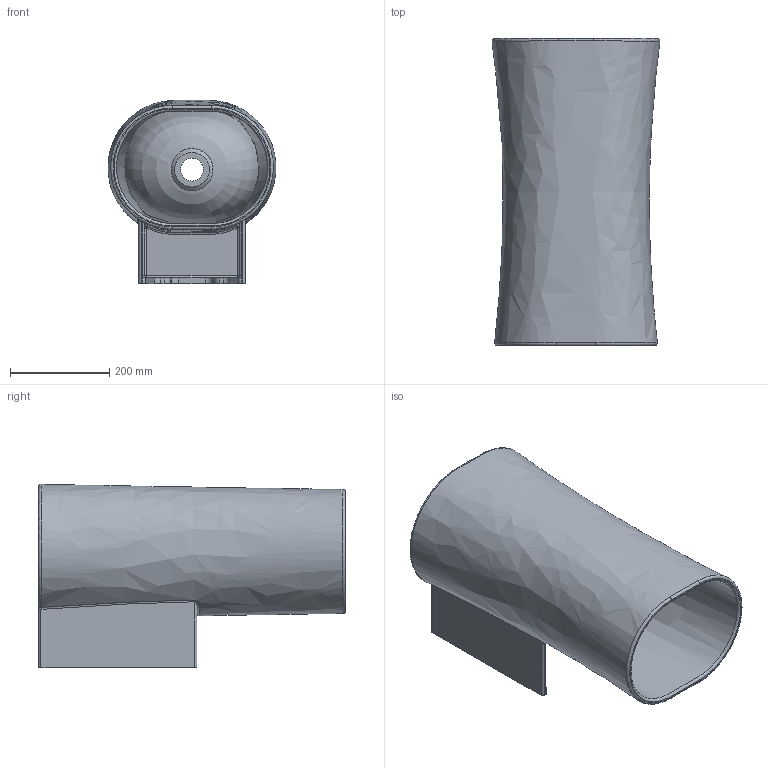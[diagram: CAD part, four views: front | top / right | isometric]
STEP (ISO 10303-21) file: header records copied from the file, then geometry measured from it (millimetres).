
FILE_DESCRIPTION (( 'STEP AP203' ), '1' );
FILE_NAME ('LALS035370N0.STEP', '2021-11-04T07:56:34', ( '' ), ( '' ), 'SwSTEP 2.0', 'SolidWorks 2021', '' );
FILE_SCHEMA (( 'CONFIG_CONTROL_DESIGN' ));
Length unit declared in the file: millimetre
Products named in the file (1): LALS035370N0
Bounding box: 339.18 x 620 x 369.91 mm (x, y, z)
Volume: 9477232.2 mm3; surface area: 1479187.8 mm2
Topology: 1 solids, 1 shells, 105 faces, 282 edges, 173 vertices
Faces by surface type: bspline 45, plane 25, cylinder 25, torus 4, sphere 4, cone 2
Full cylindrical faces by diameter (mm): 46 x1, 70 x1
Entity records: 52615 total; most frequent: CARTESIAN_POINT 50371, ORIENTED_EDGE 506, DIRECTION 361, EDGE_CURVE 253, VERTEX_POINT 163, AXIS2_PLACEMENT_3D 143, EDGE_LOOP 122, FACE_OUTER_BOUND 112
